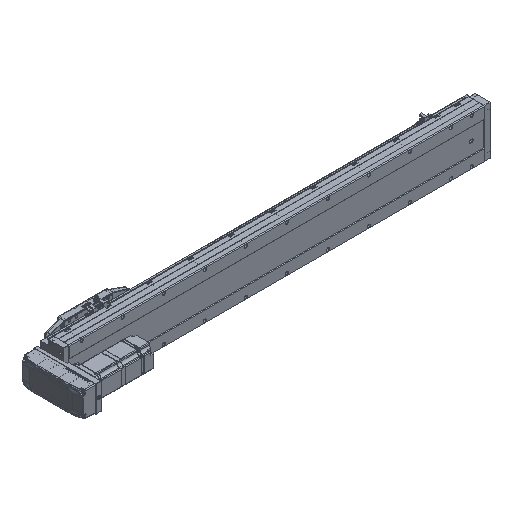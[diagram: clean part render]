
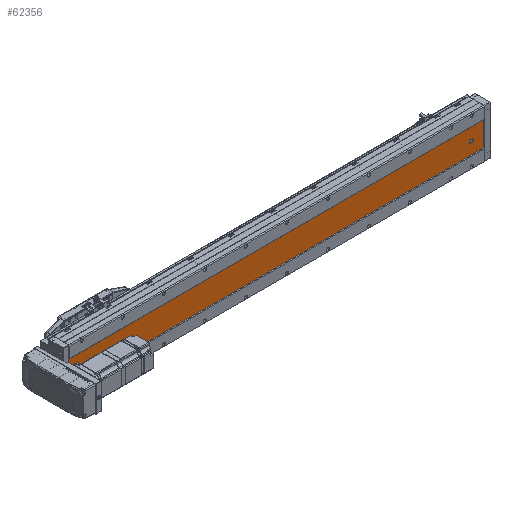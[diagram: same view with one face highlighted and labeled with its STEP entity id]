
A CAD part, isometric view. The second image highlights one B-rep face of the part: STEP entity #62356.
In plain terms, the highlighted planar face has unit normal (0, -1, 0).
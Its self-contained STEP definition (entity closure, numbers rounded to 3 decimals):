
#53 = EDGE_CURVE ( 'NONE', #38118, #27388, #80887, .T. ) ;
#176 = DIRECTION ( 'NONE',  ( 0., 1., 0. ) ) ;
#828 = VECTOR ( 'NONE', #65043, 1000. ) ;
#1609 = CARTESIAN_POINT ( 'NONE',  ( -39.892, -52.848, 977.5 ) ) ;
#2639 = CARTESIAN_POINT ( 'NONE',  ( -39.892, -52.848, 30. ) ) ;
#3153 = CARTESIAN_POINT ( 'NONE',  ( -43.392, -52.848, 1011. ) ) ;
#4739 = CARTESIAN_POINT ( 'NONE',  ( -36.392, -52.848, 32. ) ) ;
#5529 = LINE ( 'NONE', #3153, #69392 ) ;
#5531 = DIRECTION ( 'NONE',  ( 0., 1., 0. ) ) ;
#5661 = EDGE_CURVE ( 'NONE', #81202, #20490, #15504, .T. ) ;
#5698 = DIRECTION ( 'NONE',  ( 0., 0., 1. ) ) ;
#5802 = CARTESIAN_POINT ( 'NONE',  ( -39.892, -52.848, 981. ) ) ;
#5998 = ORIENTED_EDGE ( 'NONE', *, *, #65924, .F. ) ;
#6921 = CIRCLE ( 'NONE', #20959, 3.5 ) ;
#7377 = ORIENTED_EDGE ( 'NONE', *, *, #80477, .T. ) ;
#8150 = EDGE_CURVE ( 'NONE', #14983, #75305, #12203, .T. ) ;
#8472 = CARTESIAN_POINT ( 'NONE',  ( -9.892, -52.848, 0. ) ) ;
#8637 = DIRECTION ( 'NONE',  ( 0., 0., 1. ) ) ;
#10743 = ORIENTED_EDGE ( 'NONE', *, *, #53, .T. ) ;
#11518 = AXIS2_PLACEMENT_3D ( 'NONE', #32034, #55769, #62090 ) ;
#11535 = CARTESIAN_POINT ( 'NONE',  ( -36.392, -52.848, 30. ) ) ;
#11704 = PLANE ( 'NONE',  #52017 ) ;
#12203 = LINE ( 'NONE', #52717, #14075 ) ;
#13087 = VERTEX_POINT ( 'NONE', #76680 ) ;
#14075 = VECTOR ( 'NONE', #22071, 1000. ) ;
#14522 = ORIENTED_EDGE ( 'NONE', *, *, #55087, .T. ) ;
#14592 = CARTESIAN_POINT ( 'NONE',  ( -69.892, -52.848, 1011. ) ) ;
#14983 = VERTEX_POINT ( 'NONE', #4739 ) ;
#15504 = CIRCLE ( 'NONE', #50716, 3.5 ) ;
#15813 = DIRECTION ( 'NONE',  ( 0., 0., 1. ) ) ;
#18085 = CARTESIAN_POINT ( 'NONE',  ( -69.892, -52.848, 1011. ) ) ;
#18581 = EDGE_LOOP ( 'NONE', ( #35744, #39552, #77585, #46368, #32318 ) ) ;
#18588 = VERTEX_POINT ( 'NONE', #73727 ) ;
#20490 = VERTEX_POINT ( 'NONE', #1609 ) ;
#20959 = AXIS2_PLACEMENT_3D ( 'NONE', #5802, #5531, #24847 ) ;
#21060 = CARTESIAN_POINT ( 'NONE',  ( -39.892, -52.848, 877.5 ) ) ;
#21342 = CARTESIAN_POINT ( 'NONE',  ( -69.892, -52.848, 0. ) ) ;
#22071 = DIRECTION ( 'NONE',  ( 0., 0., -1. ) ) ;
#22321 = LINE ( 'NONE', #57228, #48799 ) ;
#22729 = CARTESIAN_POINT ( 'NONE',  ( -39.892, -52.848, 26.5 ) ) ;
#22802 = CARTESIAN_POINT ( 'NONE',  ( -69.892, -52.848, 1011. ) ) ;
#23114 = DIRECTION ( 'NONE',  ( 0., 1., 0. ) ) ;
#24475 = CARTESIAN_POINT ( 'NONE',  ( -39.892, -52.848, 30. ) ) ;
#24631 = CIRCLE ( 'NONE', #27771, 3.5 ) ;
#24847 = DIRECTION ( 'NONE',  ( 0., 0., 1. ) ) ;
#25228 = VERTEX_POINT ( 'NONE', #39254 ) ;
#27388 = VERTEX_POINT ( 'NONE', #48767 ) ;
#27771 = AXIS2_PLACEMENT_3D ( 'NONE', #80532, #81084, #62130 ) ;
#29439 = DIRECTION ( 'NONE',  ( 0., 0., 1. ) ) ;
#29453 = LINE ( 'NONE', #46984, #828 ) ;
#31555 = DIRECTION ( 'NONE',  ( 0., 1., 0. ) ) ;
#31560 = AXIS2_PLACEMENT_3D ( 'NONE', #24475, #55629, #5698 ) ;
#32034 = CARTESIAN_POINT ( 'NONE',  ( -39.892, -52.848, 32. ) ) ;
#32138 = CARTESIAN_POINT ( 'NONE',  ( -39.892, -52.848, 881. ) ) ;
#32213 = VERTEX_POINT ( 'NONE', #8472 ) ;
#32318 = ORIENTED_EDGE ( 'NONE', *, *, #32791, .T. ) ;
#32558 = EDGE_LOOP ( 'NONE', ( #7377, #36182 ) ) ;
#32720 = EDGE_CURVE ( 'NONE', #38118, #18588, #22321, .T. ) ;
#32791 = EDGE_CURVE ( 'NONE', #13087, #74953, #5529, .T. ) ;
#35744 = ORIENTED_EDGE ( 'NONE', *, *, #48681, .T. ) ;
#36182 = ORIENTED_EDGE ( 'NONE', *, *, #45660, .T. ) ;
#37782 = CIRCLE ( 'NONE', #68573, 3.5 ) ;
#38118 = VERTEX_POINT ( 'NONE', #22802 ) ;
#39254 = CARTESIAN_POINT ( 'NONE',  ( -39.892, -52.848, 884.5 ) ) ;
#39552 = ORIENTED_EDGE ( 'NONE', *, *, #8150, .T. ) ;
#39859 = LINE ( 'NONE', #21342, #72134 ) ;
#40208 = ORIENTED_EDGE ( 'NONE', *, *, #32720, .F. ) ;
#40462 = ORIENTED_EDGE ( 'NONE', *, *, #78920, .T. ) ;
#40603 = DIRECTION ( 'NONE',  ( 0., 1., 0. ) ) ;
#41043 = FACE_BOUND ( 'NONE', #32558, .T. ) ;
#41676 = EDGE_LOOP ( 'NONE', ( #14522, #42541 ) ) ;
#42200 = AXIS2_PLACEMENT_3D ( 'NONE', #32138, #176, #63571 ) ;
#42541 = ORIENTED_EDGE ( 'NONE', *, *, #5661, .T. ) ;
#45660 = EDGE_CURVE ( 'NONE', #25228, #79434, #24631, .T. ) ;
#46368 = ORIENTED_EDGE ( 'NONE', *, *, #59423, .T. ) ;
#46984 = CARTESIAN_POINT ( 'NONE',  ( -9.892, -52.848, 1011. ) ) ;
#47601 = VERTEX_POINT ( 'NONE', #22729 ) ;
#48681 = EDGE_CURVE ( 'NONE', #74953, #14983, #59159, .T. ) ;
#48767 = CARTESIAN_POINT ( 'NONE',  ( -69.892, -52.848, 0. ) ) ;
#48799 = VECTOR ( 'NONE', #63831, 1000. ) ;
#50716 = AXIS2_PLACEMENT_3D ( 'NONE', #69557, #31555, #62427 ) ;
#52017 = AXIS2_PLACEMENT_3D ( 'NONE', #18085, #23114, #29439 ) ;
#52717 = CARTESIAN_POINT ( 'NONE',  ( -36.392, -52.848, 1011. ) ) ;
#53106 = DIRECTION ( 'NONE',  ( 1., 0., 0. ) ) ;
#55087 = EDGE_CURVE ( 'NONE', #20490, #81202, #6921, .T. ) ;
#55629 = DIRECTION ( 'NONE',  ( 0., 1., 0. ) ) ;
#55769 = DIRECTION ( 'NONE',  ( 0., 1., 0. ) ) ;
#57228 = CARTESIAN_POINT ( 'NONE',  ( -69.892, -52.848, 1011. ) ) ;
#57646 = FACE_BOUND ( 'NONE', #18581, .T. ) ;
#59159 = CIRCLE ( 'NONE', #11518, 3.5 ) ;
#59184 = CIRCLE ( 'NONE', #31560, 3.5 ) ;
#59423 = EDGE_CURVE ( 'NONE', #47601, #13087, #37782, .T. ) ;
#60001 = CIRCLE ( 'NONE', #42200, 3.5 ) ;
#61575 = FACE_OUTER_BOUND ( 'NONE', #73671, .T. ) ;
#62090 = DIRECTION ( 'NONE',  ( 0., 0., 1. ) ) ;
#62130 = DIRECTION ( 'NONE',  ( 0., 0., 1. ) ) ;
#62201 = VECTOR ( 'NONE', #76931, 1000. ) ;
#62356 = ADVANCED_FACE ( 'NONE', ( #57646, #41043, #63564, #61575 ), #11704, .F. ) ;
#62427 = DIRECTION ( 'NONE',  ( 0., 0., 1. ) ) ;
#63564 = FACE_BOUND ( 'NONE', #41676, .T. ) ;
#63571 = DIRECTION ( 'NONE',  ( 0., 0., 1. ) ) ;
#63831 = DIRECTION ( 'NONE',  ( 1., 0., 0. ) ) ;
#65043 = DIRECTION ( 'NONE',  ( 0., 0., -1. ) ) ;
#65924 = EDGE_CURVE ( 'NONE', #18588, #32213, #29453, .T. ) ;
#68573 = AXIS2_PLACEMENT_3D ( 'NONE', #2639, #40603, #15813 ) ;
#69324 = EDGE_CURVE ( 'NONE', #75305, #47601, #59184, .T. ) ;
#69392 = VECTOR ( 'NONE', #8637, 1000. ) ;
#69512 = CARTESIAN_POINT ( 'NONE',  ( -39.892, -52.848, 984.5 ) ) ;
#69557 = CARTESIAN_POINT ( 'NONE',  ( -39.892, -52.848, 981. ) ) ;
#72134 = VECTOR ( 'NONE', #53106, 1000. ) ;
#73671 = EDGE_LOOP ( 'NONE', ( #40462, #5998, #40208, #10743 ) ) ;
#73727 = CARTESIAN_POINT ( 'NONE',  ( -9.892, -52.848, 1011. ) ) ;
#74953 = VERTEX_POINT ( 'NONE', #76667 ) ;
#75305 = VERTEX_POINT ( 'NONE', #11535 ) ;
#76667 = CARTESIAN_POINT ( 'NONE',  ( -43.392, -52.848, 32. ) ) ;
#76680 = CARTESIAN_POINT ( 'NONE',  ( -43.392, -52.848, 30. ) ) ;
#76931 = DIRECTION ( 'NONE',  ( 0., 0., -1. ) ) ;
#77585 = ORIENTED_EDGE ( 'NONE', *, *, #69324, .T. ) ;
#78920 = EDGE_CURVE ( 'NONE', #27388, #32213, #39859, .T. ) ;
#79434 = VERTEX_POINT ( 'NONE', #21060 ) ;
#80477 = EDGE_CURVE ( 'NONE', #79434, #25228, #60001, .T. ) ;
#80532 = CARTESIAN_POINT ( 'NONE',  ( -39.892, -52.848, 881. ) ) ;
#80887 = LINE ( 'NONE', #14592, #62201 ) ;
#81084 = DIRECTION ( 'NONE',  ( 0., 1., 0. ) ) ;
#81202 = VERTEX_POINT ( 'NONE', #69512 ) ;
